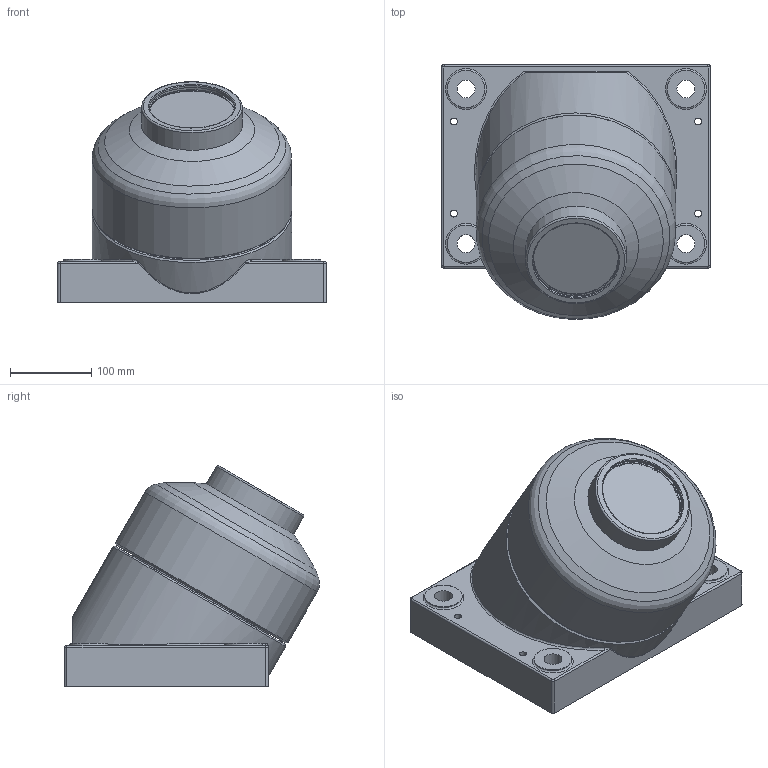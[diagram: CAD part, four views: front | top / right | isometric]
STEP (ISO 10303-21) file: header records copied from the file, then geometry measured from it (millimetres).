
FILE_DESCRIPTION(/* description */ (''),/* implementation_level */ '2;1');
FILE_NAME(/* name */ 'Z:\34-Tei\01-web 3Dデータ\SW車輪\SW-250-K.stp',/* time_stamp */ '2015-03-17T16:52:35+09:00',/* author */ ('yamaki'),/* organization */ (''),/* preprocessor_version */ 'ST-DEVELOPER v15.6',/* originating_system */ 'Autodesk Inventor 2015',/* authorisation */ '');
FILE_SCHEMA (('AUTOMOTIVE_DESIGN { 1 0 10303 214 3 1 1 }'));
Length unit declared in the file: centimetre
Products named in the file (1): SW-250-K
Bounding box: 330 x 313.08 x 270.89 mm (x, y, z)
Volume: 10963439.6 mm3; surface area: 630049 mm2
Topology: 1 solids, 3 shells, 151 faces, 314 edges, 199 vertices
Faces by surface type: cylinder 61, plane 51, cone 15, torus 14, bspline 10
Full cylindrical faces by diameter (mm): 8 x1, 8.376 x4, 10.5 x1, 22 x4, 45 x2, 46 x4, 55 x1, 61 x2, 64 x1, 68 x1, 84 x2, 90 x1, 100 x2, 100.1 x1, 102 x1, 104 x1, 105 x2, 109 x1, 118 x1, 120 x1, 123.76 x1, 170.1 x2, 172 x1, 180 x1, 194 x2, 200 x1, 245 x2
Entity records: 4129 total; most frequent: CARTESIAN_POINT 1003, DIRECTION 650, ORIENTED_EDGE 450, AXIS2_PLACEMENT_3D 298, EDGE_LOOP 272, EDGE_CURVE 225, VERTEX_POINT 181, STYLED_ITEM 152
